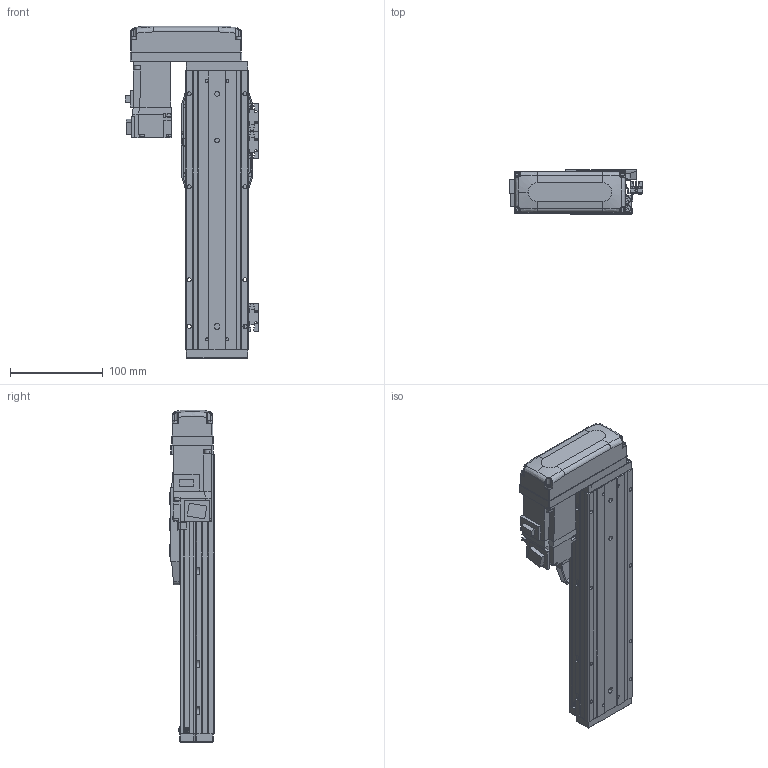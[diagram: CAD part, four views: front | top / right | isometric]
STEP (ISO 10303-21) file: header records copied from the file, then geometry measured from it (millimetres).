
FILE_DESCRIPTION (( 'STEP AP203' ), '1' );
FILE_NAME ('CTHA60-150-BR-M10-C4L.step', '2022-03-19T06:21:20', ( '微软用户' ), ( '微软中国' ), 'SwSTEP 2.0', 'SolidWorks 2020', '' );
FILE_SCHEMA (( 'CONFIG_CONTROL_DESIGN' ));
Length unit declared in the file: millimetre
Products named in the file (18): GBT 70.1-M3℅6; CTHA60-033; GB¨uT 70.2-M3¡Á6_M3¡Á6; GBT 70.3-M3℅6; CTHA60-150-BR-M10-C4L; EE_SX911P_R; CTHA60-016; CTHA60-017; HG-KR13（三菱）; CTHA60-021; CTHA60-002; CTHA60-001_300; GBT 70.1-M4×16; CTHA60-031; CTHA60-004; GBT77-2000 M3×3; CTHA60-006-1; CTHA60-005
Assembly tree (54 placements, depth 2):
  CTHA60-150-BR-M10-C4L
    CTHA60-001_300
    CTHA60-004
    CTHA60-005
    GB¨uT 70.2-M3¡Á6_M3¡Á6  x10
    EE_SX911P_R  x3
    CTHA60-017  x3
    CTHA60-021  x2
    GBT 70.1-M4×16  x10
    GBT77-2000 M3×3  x6
    GBT 70.1-M3℅6  x6
    GBT 70.3-M3℅6  x4
    CTHA60-016  x2
    HG-KR13（三菱）
    CTHA60-002
    CTHA60-031
    CTHA60-006-1
    CTHA60-033
Bounding box: 143.62 x 48 x 357 mm (x, y, z)
Volume: 765111.8 mm3; surface area: 249815.6 mm2
Topology: 56 solids, 56 shells, 2454 faces, 5869 edges, 3613 vertices
Faces by surface type: plane 1413, cylinder 559, cone 334, torus 92, bspline 32, sphere 24
Entity records: 43073 total; most frequent: CARTESIAN_POINT 8362, DIRECTION 6616, ORIENTED_EDGE 6546, EDGE_CURVE 3273, LINE 2316, VECTOR 2316, AXIS2_PLACEMENT_3D 2150, VERTEX_POINT 2072
